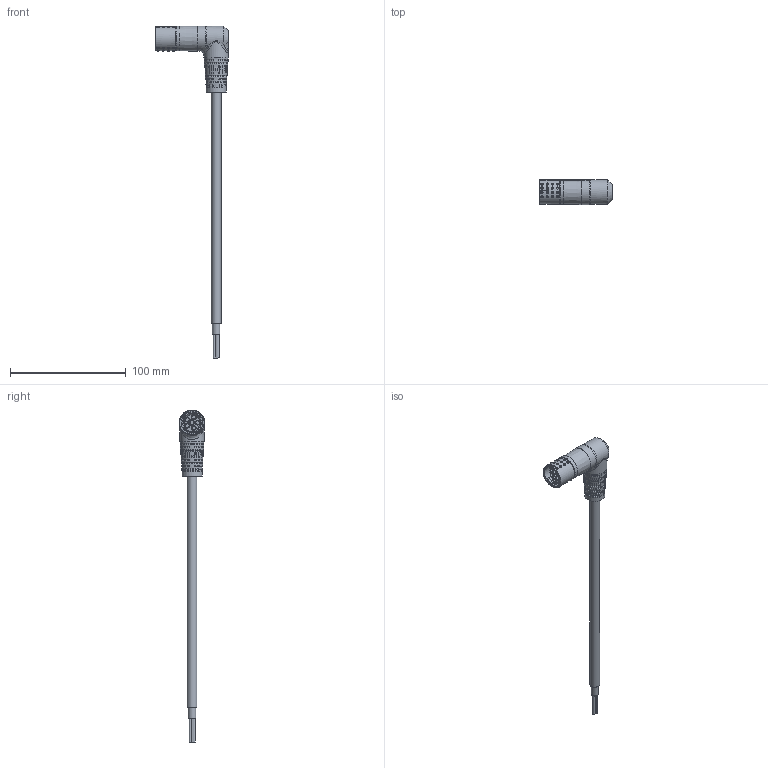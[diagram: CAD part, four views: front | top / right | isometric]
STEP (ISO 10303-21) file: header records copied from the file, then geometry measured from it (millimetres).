
FILE_DESCRIPTION (( 'STEP AP203' ), '1' );
FILE_NAME ('1135020_W-TEC_15M_GLATT_BU-90°L_STEP.STEP', '2023-09-06T07:45:58', ( '' ), ( '' ), 'SwSTEP 2.0', 'SolidWorks 2021', '' );
FILE_SCHEMA (( 'CONFIG_CONTROL_DESIGN' ));
Length unit declared in the file: millimetre
Products named in the file (1): 1135020_W-TEC_15M_GLATT_BU-90袂_STEP
Bounding box: 62.81 x 21.83 x 287.13 mm (x, y, z)
Surface area: 16553.8 mm2 (no closed solid volume)
Topology: 0 solids, 19 shells, 428 faces, 1758 edges, 1264 vertices
Faces by surface type: bspline 250, cylinder 77, plane 73, cone 27, torus 1
Full cylindrical faces by diameter (mm): 1.8 x3, 3.3 x6, 4.2 x3, 5.4 x1, 6.4 x1, 8.4 x1, 11.1 x1, 16.8 x1, 17.397 x1, 18.4 x1, 21.038 x1, 21.72 x1
Entity records: 37141 total; most frequent: CARTESIAN_POINT 26351, ORIENTED_EDGE 2496, EDGE_CURVE 1665, DIRECTION 1276, VERTEX_POINT 1245, B_SPLINE_CURVE_WITH_KNOTS 936, EDGE_LOOP 528, AXIS2_PLACEMENT_3D 485
